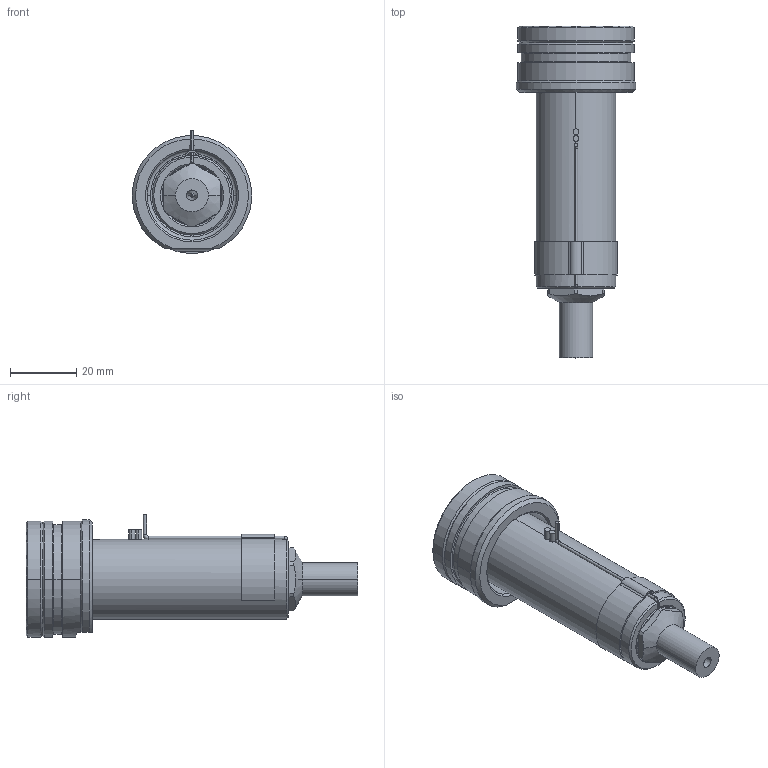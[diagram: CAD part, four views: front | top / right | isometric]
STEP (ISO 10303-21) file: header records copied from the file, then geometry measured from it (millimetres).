
FILE_DESCRIPTION((''),'2;1');
FILE_NAME('EO06_PG-FBE_STD_070_SW','2024-02-19T11:49:26',('sundharh'),(''),'CREO PARAMETRIC BY PTC INC, 2023154','CREO PARAMETRIC BY PTC INC, 2023154','');
FILE_SCHEMA(('CONFIG_CONTROL_DESIGN'));
Length unit declared in the file: millimetre
Products named in the file (1): EO06_PG-FBE_STD_070_SW
Bounding box: 35.93 x 100 x 37 mm (x, y, z)
Volume: 44102 mm3; surface area: 14641.5 mm2
Topology: 2 solids, 2 shells, 212 faces, 568 edges, 348 vertices
Faces by surface type: cylinder 85, plane 55, cone 42, torus 21, bspline 6, sphere 3
Entity records: 7563 total; most frequent: CARTESIAN_POINT 2175, DIRECTION 1189, ORIENTED_EDGE 1120, EDGE_CURVE 560, AXIS2_PLACEMENT_3D 500, VERTEX_POINT 348, CIRCLE 294, EDGE_LOOP 228
